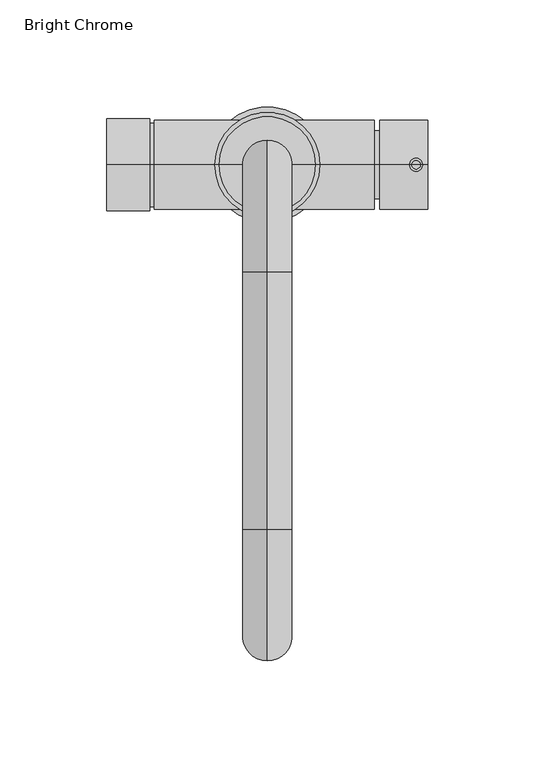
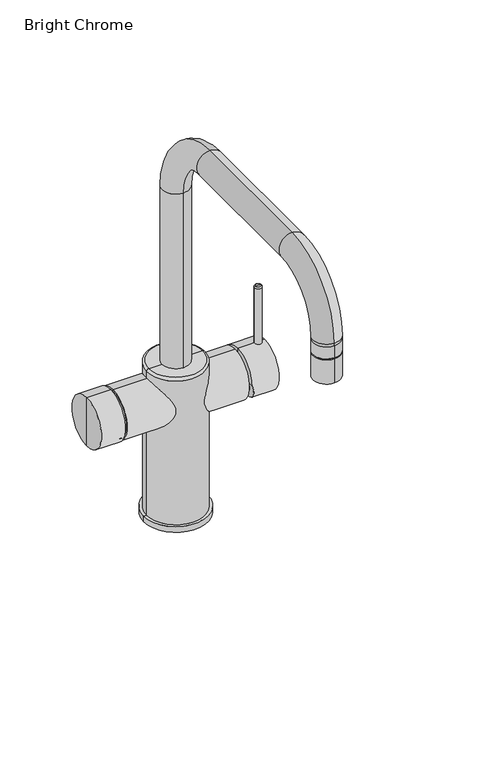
"""IFC4 building model written with IfcOpenShell, lengths in millimetres: flow terminal geometry, z_PlumFixt_Zip_Celsius Cube : Bright Chrome."""

from ifc_helpers import new_model, si_unit, point, frame, frame_2d, origin, place, context, project, spatial, circle_curve, ellipse_curve, trimmed, segment, composite_curve, outline, extrude, source, transform, mapped, element, save
from ifc_brep_helpers import plane_surface, cylinder_surface, revolved_surface, advanced_brep


def bright_chrome_d5fbbf34(model_context):
    return source(origin(), model_context, "Body", "SolidModel", [
        advanced_brep(
        [(68.5351919, 88.75, 176.8850432), (72.5351919, 88.75, 176.8850432), (70.5351919, 88.75, 176.8850432), (67.5351919, 88.75, 175.8850432), (73.5351919, 88.75, 175.8850432), (67.5351919, 88.75, 123.0), (73.5351919, 88.75, 123.0), (70.5351919, 88.75, 123.0)],
        [
            (0, 1, circle_curve(frame((70.5351919, 88.75, 176.8850432), z_axis=(0.0, 0.0, 1.0), x_axis=(1.0, 0.0, 0.0)), 2.0)),
            (1, 2),
            (2, 0),
            (1, 0, circle_curve(frame((70.5351919, 88.75, 176.8850432), z_axis=(0.0, 0.0, 1.0), x_axis=(1.0, 0.0, 0.0)), 2.0)),
            (3, 4, circle_curve(frame((70.5351919, 88.75, 175.8850432), z_axis=(0.0, 0.0, 1.0), x_axis=(1.0, 0.0, 0.0)), 3.0)),
            (4, 1, circle_curve(frame((72.5351919, 88.75, 175.8850432), z_axis=(0.0, -1.0, 0.0), x_axis=(-1.0, 0.0, 0.0)), 1.0)),
            (0, 3, circle_curve(frame((68.5351919, 88.75, 175.8850432), z_axis=(0.0, -1.0, 0.0), x_axis=(1.0, 0.0, 0.0)), 1.0)),
            (4, 3, circle_curve(frame((70.5351919, 88.75, 175.8850432), z_axis=(0.0, 0.0, 1.0), x_axis=(1.0, 0.0, 0.0)), 3.0)),
            (5, 6, circle_curve(frame((70.5351919, 88.75, 123.0), z_axis=(0.0, 0.0, 1.0), x_axis=(1.0, 0.0, 0.0)), 3.0)),
            (6, 4),
            (3, 5),
            (6, 5, circle_curve(frame((70.5351919, 88.75, 123.0), z_axis=(0.0, 0.0, 1.0), x_axis=(1.0, 0.0, 0.0)), 3.0)),
            (7, 6),
            (5, 7),
        ],
        [
            plane_surface(frame((70.5351919, 88.75, 176.8850432), z_axis=(0.0, 0.0, 1.0), x_axis=(1.0, 0.0, 0.0))),
            revolved_surface(trimmed(ellipse_curve(frame((72.5351919, 88.75, 175.8850432), z_axis=(0.0, 1.0, 0.0), x_axis=(-1.0, 0.0, 0.0)), 1.0, 1.0), [point((72.5351919, 88.75, 176.8850432))], [point((73.5351919, 88.75, 175.8850432))], True, "CARTESIAN"), (70.5351919, 88.75, 123.0), (0.0, 0.0, -1.0)),
            cylinder_surface(frame((70.5351919, 88.75, 123.0), z_axis=(0.0, 0.0, -1.0), x_axis=(1.0, 0.0, 0.0)), 3.0),
            plane_surface(frame((70.5351919, 88.75, 123.0), z_axis=(0.0, 0.0, -1.0), x_axis=(1.0, 0.0, 0.0))),
        ],
        [
            (0, [[1, 2, 3]]),
            (0, [[4, -3, -2]]),
            (1, [[5, 6, -1, 7]]),
            (1, [[8, -7, -4, -6]]),
            (2, [[9, 10, -5, 11]]),
            (2, [[12, -11, -8, -10]]),
            (3, [[13, -9, 14]]),
            (3, [[-14, -12, -13]]),
        ],
    ),
        advanced_brep(
        [(76.0, 88.75, 84.8850432), (76.0, 88.75, 126.8850432), (53.5, 88.75, 126.8850432), (53.5, 67.75, 105.8850432), (59.126933, 88.75, 84.8850432), (53.5, 109.75, 105.8850432), (53.5, 88.75, 105.8850432), (76.0, 88.75, 105.8850432)],
        [
            (0, 1, circle_curve(frame((76.0, 88.75, 105.8850432), z_axis=(-1.0, 0.0, 0.0), x_axis=(0.0, 0.0, 1.0)), 21.0)),
            (1, 2),
            (2, 3, circle_curve(frame((53.5, 88.75, 105.8850432), z_axis=(1.0, 0.0, 0.0), x_axis=(0.0, 0.0, 1.0)), 21.0)),
            (3, 4, ellipse_curve(frame((53.5, 88.75, 105.8850432), z_axis=(0.9659258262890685, 0.0, 0.2588190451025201), x_axis=(0.25881904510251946, 0.0, -0.9659258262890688)), 21.7407998, 21.0)),
            (4, 0),
            (1, 0, circle_curve(frame((76.0, 88.75, 105.8850432), z_axis=(-1.0, 0.0, 0.0), x_axis=(0.0, 0.0, 1.0)), 21.0)),
            (4, 5, ellipse_curve(frame((53.5, 88.75, 105.8850432), z_axis=(0.9659258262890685, 0.0, 0.2588190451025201), x_axis=(0.25881904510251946, 0.0, -0.9659258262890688)), 21.7407998, 21.0)),
            (5, 2, circle_curve(frame((53.5, 88.75, 105.8850432), z_axis=(1.0, 0.0, 0.0), x_axis=(0.0, 0.0, 1.0)), 21.0)),
            (2, 6),
            (6, 3),
            (5, 6),
            (0, 7),
            (7, 1),
        ],
        [
            cylinder_surface(frame((1.0, 88.75, 105.8850432), z_axis=(1.0, 0.0, 0.0), x_axis=(0.0, 0.0, 1.0)), 21.0),
            plane_surface(frame((53.5, 88.75, 105.8850432), z_axis=(-1.0, 0.0, 0.0), x_axis=(0.0, 0.0, 1.0))),
            plane_surface(frame((76.0, 88.75, 105.8850432), z_axis=(1.0, 0.0, 0.0), x_axis=(0.0, 0.0, 1.0))),
            plane_surface(frame((53.5, 115.75, 105.8850432), z_axis=(-0.9659258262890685, 0.0, -0.2588190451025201), x_axis=(0.0, -1.0, 0.0))),
        ],
        [
            (0, [[1, 2, 3, 4, 5]]),
            (0, [[-2, 6, -5, 7, 8]]),
            (1, [[9, 10, -3]]),
            (1, [[-9, -8, 11]]),
            (2, [[-1, 12, 13]]),
            (2, [[-6, -13, -12]]),
            (3, [[-4, -10, -11, -7]]),
        ],
    ),
        advanced_brep(
        [(1.0, -131.75, 253.0378342), (1.0, -136.75, 253.0378342), (1.0, -126.75, 253.0378342), (1.0, -136.75, 255.0), (1.0, -126.75, 255.0), (1.0, -143.25, 255.0), (1.0, -120.25, 255.0), (1.0, -120.25, 277.5), (1.0, -143.25, 277.5), (1.0, -143.25, 288.0), (1.0, -120.25, 288.0), (1.0, -121.2057691, 277.5), (1.0, -142.2942309, 277.5), (1.0, -121.2057691, 276.4755357), (1.0, -142.2942309, 276.4755357), (1.0, -120.25, 276.4755357), (1.0, -143.25, 276.4755357), (1.0, 100.25, 135.0), (1.0, 77.25, 135.0), (1.0, 100.25, 290.5), (1.0, 77.25, 290.5), (1.0, 38.75, 352.0), (1.0, 38.75, 329.0), (1.0, -81.75, 352.0), (1.0, -81.75, 329.0), (1.0, -143.25, 290.5), (1.0, -120.25, 290.5)],
        [
            (0, 1),
            (1, 2, circle_curve(frame((1.0, -131.75, 253.0378342), z_axis=(0.0, 0.0, -1.0), x_axis=(0.0, -1.0, 0.0)), 5.0)),
            (2, 0),
            (2, 1, circle_curve(frame((1.0, -131.75, 253.0378342), z_axis=(0.0, 0.0, -1.0), x_axis=(0.0, -1.0, 0.0)), 5.0)),
            (1, 3),
            (3, 4, circle_curve(frame((1.0, -131.75, 255.0), z_axis=(0.0, 0.0, -1.0), x_axis=(0.0, -1.0, 0.0)), 5.0)),
            (4, 2),
            (4, 3, circle_curve(frame((1.0, -131.75, 255.0), z_axis=(0.0, 0.0, -1.0), x_axis=(0.0, -1.0, 0.0)), 5.0)),
            (3, 5),
            (5, 6, circle_curve(frame((1.0, -131.75, 255.0), z_axis=(0.0, 0.0, -1.0), x_axis=(0.0, -1.0, 0.0)), 11.5)),
            (6, 4),
            (6, 5, circle_curve(frame((1.0, -131.75, 255.0), z_axis=(0.0, 0.0, -1.0), x_axis=(0.0, -1.0, 0.0)), 11.5)),
            (7, 8, circle_curve(frame((1.0, -131.75, 277.5), z_axis=(0.0, 0.0, 1.0), x_axis=(0.0, -1.0, 0.0)), 11.5)),
            (8, 9),
            (9, 10, circle_curve(frame((1.0, -131.75, 288.0), z_axis=(0.0, 0.0, -1.0), x_axis=(0.0, -1.0, 0.0)), 11.5)),
            (10, 7),
            (8, 7, circle_curve(frame((1.0, -131.75, 277.5), z_axis=(0.0, 0.0, 1.0), x_axis=(0.0, -1.0, 0.0)), 11.5)),
            (10, 9, circle_curve(frame((1.0, -131.75, 288.0), z_axis=(0.0, 0.0, -1.0), x_axis=(0.0, -1.0, 0.0)), 11.5)),
            (7, 11),
            (11, 12, circle_curve(frame((1.0, -131.75, 277.5), z_axis=(0.0, 0.0, 1.0), x_axis=(0.0, -1.0, 0.0)), 10.5442309)),
            (12, 8),
            (12, 11, circle_curve(frame((1.0, -131.75, 277.5), z_axis=(0.0, 0.0, 1.0), x_axis=(0.0, -1.0, 0.0)), 10.5442309)),
            (11, 13),
            (13, 14, circle_curve(frame((1.0, -131.75, 276.4755357), z_axis=(0.0, 0.0, 1.0), x_axis=(0.0, -1.0, 0.0)), 10.5442309)),
            (14, 12),
            (14, 13, circle_curve(frame((1.0, -131.75, 276.4755357), z_axis=(0.0, 0.0, 1.0), x_axis=(0.0, -1.0, 0.0)), 10.5442309)),
            (13, 15),
            (15, 16, circle_curve(frame((1.0, -131.75, 276.4755357), z_axis=(0.0, 0.0, 1.0), x_axis=(0.0, -1.0, 0.0)), 11.5)),
            (16, 14),
            (16, 15, circle_curve(frame((1.0, -131.75, 276.4755357), z_axis=(0.0, 0.0, 1.0), x_axis=(0.0, -1.0, 0.0)), 11.5)),
            (5, 16),
            (15, 6),
            (17, 18, circle_curve(frame((1.0, 88.75, 135.0), z_axis=(0.0, 0.0, -1.0), x_axis=(0.0, -1.0, 0.0)), 11.5)),
            (18, 17, circle_curve(frame((1.0, 88.75, 135.0), z_axis=(0.0, 0.0, -1.0), x_axis=(0.0, -1.0, 0.0)), 11.5)),
            (17, 19),
            (19, 20, circle_curve(frame((1.0, 88.75, 290.5), z_axis=(0.0, 0.0, -1.0), x_axis=(0.0, -1.0, 0.0)), 11.5)),
            (20, 18),
            (20, 19, circle_curve(frame((1.0, 88.75, 290.5), z_axis=(0.0, 0.0, -1.0), x_axis=(0.0, -1.0, 0.0)), 11.5)),
            (19, 21, circle_curve(frame((1.0, 38.75, 290.5), z_axis=(1.0, 0.0, 0.0), x_axis=(0.0, 1.0, 0.0)), 61.5)),
            (21, 22, circle_curve(frame((1.0, 38.75, 340.5), z_axis=(0.0, 1.0, 0.0), x_axis=(0.0, 0.0, -1.0)), 11.5)),
            (22, 20, circle_curve(frame((1.0, 38.75, 290.5), z_axis=(-1.0, 0.0, 0.0), x_axis=(0.0, 1.0, 0.0)), 38.5)),
            (22, 21, circle_curve(frame((1.0, 38.75, 340.5), z_axis=(0.0, 1.0, 0.0), x_axis=(0.0, 0.0, -1.0)), 11.5)),
            (21, 23),
            (23, 24, circle_curve(frame((1.0, -81.75, 340.5), z_axis=(0.0, 1.0, 0.0), x_axis=(0.0, 0.0, -1.0)), 11.5)),
            (24, 22),
            (24, 23, circle_curve(frame((1.0, -81.75, 340.5), z_axis=(0.0, 1.0, 0.0), x_axis=(0.0, 0.0, -1.0)), 11.5)),
            (23, 25, circle_curve(frame((1.0, -81.75, 290.5), z_axis=(1.0, 0.0, 0.0), x_axis=(0.0, 0.0, 1.0)), 61.5)),
            (25, 26, circle_curve(frame((1.0, -131.75, 290.5), z_axis=(0.0, 0.0, 1.0), x_axis=(0.0, 1.0, 0.0)), 11.5)),
            (26, 24, circle_curve(frame((1.0, -81.75, 290.5), z_axis=(-1.0, 0.0, 0.0), x_axis=(0.0, 0.0, 1.0)), 38.5)),
            (26, 25, circle_curve(frame((1.0, -131.75, 290.5), z_axis=(0.0, 0.0, 1.0), x_axis=(0.0, 1.0, 0.0)), 11.5)),
            (25, 9),
            (10, 26),
        ],
        [
            plane_surface(frame((1.0, -131.75, 253.0378342), z_axis=(0.0, 0.0, -1.0), x_axis=(0.0, -1.0, 0.0))),
            cylinder_surface(frame((1.0, -131.75, 297.7861871), z_axis=(0.0, 0.0, -1.0), x_axis=(0.0, -1.0, 0.0)), 5.0),
            plane_surface(frame((1.0, -131.75, 255.0), z_axis=(0.0, 0.0, -1.0), x_axis=(0.0, -1.0, 0.0))),
            cylinder_surface(frame((1.0, -131.75, 297.7861871), z_axis=(0.0, 0.0, -1.0), x_axis=(0.0, -1.0, 0.0)), 11.5),
            plane_surface(frame((1.0, -131.75, 277.5), z_axis=(0.0, 0.0, -1.0), x_axis=(0.0, -1.0, 0.0))),
            cylinder_surface(frame((1.0, -131.75, 297.7861871), z_axis=(0.0, 0.0, -1.0), x_axis=(0.0, -1.0, 0.0)), 10.5442309),
            plane_surface(frame((1.0, -131.75, 276.4755357), z_axis=(0.0, 0.0, 1.0), x_axis=(0.0, -1.0, 0.0))),
            plane_surface(frame((1.0, 88.75, 135.0), z_axis=(0.0, 0.0, -1.0), x_axis=(1.0, 0.0, 0.0))),
            cylinder_surface(frame((1.0, 88.75, 135.0), z_axis=(0.0, 0.0, -1.0), x_axis=(0.0, -1.0, 0.0)), 11.5),
            revolved_surface(trimmed(ellipse_curve(frame((1.0, 88.75, 290.5), z_axis=(0.0, 0.0, -1.0), x_axis=(0.0, -1.0, 0.0)), 11.5, 11.5), [point((1.0, 100.25, 290.5))], [point((1.0, 77.25, 290.5))], True, "CARTESIAN"), (1.0, 38.75, 290.5), (1.0, 0.0, 0.0)),
            revolved_surface(trimmed(ellipse_curve(frame((1.0, 88.75, 290.5), z_axis=(0.0, 0.0, -1.0), x_axis=(0.0, -1.0, 0.0)), 11.5, 11.5), [point((1.0, 77.25, 290.5))], [point((1.0, 100.25, 290.5))], True, "CARTESIAN"), (1.0, 38.75, 290.5), (1.0, 0.0, 0.0)),
            cylinder_surface(frame((1.0, 38.75, 340.5), z_axis=(0.0, 1.0, 0.0), x_axis=(0.0, 0.0, -1.0)), 11.5),
            revolved_surface(trimmed(ellipse_curve(frame((1.0, -81.75, 340.5), z_axis=(0.0, 1.0, 0.0), x_axis=(0.0, 0.0, -1.0)), 11.5, 11.5), [point((1.0, -81.75, 352.0))], [point((1.0, -81.75, 329.0))], True, "CARTESIAN"), (1.0, -81.75, 290.5), (1.0, 0.0, 0.0)),
            revolved_surface(trimmed(ellipse_curve(frame((1.0, -81.75, 340.5), z_axis=(0.0, 1.0, 0.0), x_axis=(0.0, 0.0, -1.0)), 11.5, 11.5), [point((1.0, -81.75, 329.0))], [point((1.0, -81.75, 352.0))], True, "CARTESIAN"), (1.0, -81.75, 290.5), (1.0, 0.0, 0.0)),
            cylinder_surface(frame((1.0, -131.75, 290.5), z_axis=(0.0, 0.0, 1.0), x_axis=(0.0, 1.0, 0.0)), 11.5),
        ],
        [
            (0, [[1, 2, 3]]),
            (0, [[-1, -3, 4]]),
            (1, [[-2, 5, 6, 7]]),
            (1, [[-4, -7, 8, -5]]),
            (2, [[-6, 9, 10, 11]]),
            (2, [[-8, -11, 12, -9]]),
            (3, [[13, 14, 15, 16]]),
            (3, [[-14, 17, -16, 18]]),
            (4, [[-13, 19, 20, 21]]),
            (4, [[-17, -21, 22, -19]]),
            (5, [[-20, 23, 24, 25]]),
            (5, [[-22, -25, 26, -23]]),
            (6, [[-24, 27, 28, 29]]),
            (6, [[-26, -29, 30, -27]]),
            (3, [[-10, 31, -28, 32]]),
            (3, [[-12, -32, -30, -31]]),
            (7, [[33, 34]]),
            (8, [[-33, 35, 36, 37]]),
            (8, [[-34, -37, 38, -35]]),
            (9, [[-36, 39, 40, 41]]),
            (10, [[-38, -41, 42, -39]]),
            (11, [[-40, 43, 44, 45]]),
            (11, [[-42, -45, 46, -43]]),
            (12, [[-44, 47, 48, 49]]),
            (13, [[-46, -49, 50, -47]]),
            (14, [[-48, 51, -18, 52]]),
            (14, [[-50, -52, -15, -51]]),
        ],
    ),
        extrude(outline(composite_curve([segment(trimmed(circle_curve(frame_2d((-6.35, 88.75)), 6.35), [point((0.0, 88.75))], [point((-12.7, 88.75))], False, "CARTESIAN"), True, "CONTINUOUS"), segment(trimmed(circle_curve(frame_2d((-6.35, 88.75)), 6.35), [point((-12.7, 88.75))], [point((0.0, 88.75))], False, "CARTESIAN"), True, "CONTINUOUS")], self_intersect=False)), frame((0.0, 0.0, -1.0), z_axis=(0.0, 0.0, 1.0), x_axis=(1.0, 0.0, 0.0)), (0.0, 0.0, 1.0), 1.0),
        extrude(outline(composite_curve([segment(trimmed(circle_curve(frame_2d((8.35, 88.75)), 6.35), [point((14.7, 88.75))], [point((2.0, 88.75))], False, "CARTESIAN"), True, "CONTINUOUS"), segment(trimmed(circle_curve(frame_2d((8.35, 88.75)), 6.35), [point((2.0, 88.75))], [point((14.7, 88.75))], False, "CARTESIAN"), True, "CONTINUOUS")], self_intersect=False)), frame((0.0, 0.0, -1.0), z_axis=(0.0, 0.0, 1.0), x_axis=(1.0, 0.0, 0.0)), (0.0, 0.0, 1.0), 1.0),
        advanced_brep(
        [(-54.0, 88.75, 86.3400719), (-54.0, 88.75, 125.4300145), (-54.0, 88.75, 127.4300145), (-54.0, 88.75, 84.3400719), (-52.0, 88.75, 86.3400719), (-52.0, 88.75, 125.4300145), (-52.0, 88.75, 84.8850432), (-52.0, 88.75, 126.8850432), (51.0, 88.75, 84.8850432), (51.0, 88.75, 126.8850432), (59.0, 88.75, 105.8850432), (59.0, 88.75, 121.8850432), (59.0, 88.75, 89.8850432), (-74.0, 88.75, 84.3400719), (-74.0, 88.75, 127.4300145), (-74.0, 88.75, 105.8850432), (51.0, 88.75, 89.8850432), (51.0, 88.75, 121.8850432)],
        [
            (0, 1, circle_curve(frame((-54.0, 88.75, 105.8850432), z_axis=(-1.0, 0.0, 0.0), x_axis=(0.0, 0.0, 1.0)), 19.5449713)),
            (1, 2),
            (2, 3, circle_curve(frame((-54.0, 88.75, 105.8850432), z_axis=(1.0, 0.0, 0.0), x_axis=(0.0, 0.0, 1.0)), 21.5449713)),
            (3, 0),
            (1, 0, circle_curve(frame((-54.0, 88.75, 105.8850432), z_axis=(-1.0, 0.0, 0.0), x_axis=(0.0, 0.0, 1.0)), 19.5449713)),
            (3, 2, circle_curve(frame((-54.0, 88.75, 105.8850432), z_axis=(1.0, 0.0, 0.0), x_axis=(0.0, 0.0, 1.0)), 21.5449713)),
            (4, 5, circle_curve(frame((-52.0, 88.75, 105.8850432), z_axis=(-1.0, 0.0, 0.0), x_axis=(0.0, 0.0, 1.0)), 19.5449713)),
            (5, 1),
            (0, 4),
            (5, 4, circle_curve(frame((-52.0, 88.75, 105.8850432), z_axis=(-1.0, 0.0, 0.0), x_axis=(0.0, 0.0, 1.0)), 19.5449713)),
            (6, 7, circle_curve(frame((-52.0, 88.75, 105.8850432), z_axis=(-1.0, 0.0, 0.0), x_axis=(0.0, 0.0, 1.0)), 21.0)),
            (7, 5),
            (4, 6),
            (7, 6, circle_curve(frame((-52.0, 88.75, 105.8850432), z_axis=(-1.0, 0.0, 0.0), x_axis=(0.0, 0.0, 1.0)), 21.0)),
            (8, 9, circle_curve(frame((51.0, 88.75, 105.8850432), z_axis=(-1.0, 0.0, 0.0), x_axis=(0.0, 0.0, 1.0)), 21.0)),
            (9, 7),
            (6, 8),
            (9, 8, circle_curve(frame((51.0, 88.75, 105.8850432), z_axis=(-1.0, 0.0, 0.0), x_axis=(0.0, 0.0, 1.0)), 21.0)),
            (10, 11),
            (11, 12, circle_curve(frame((59.0, 88.75, 105.8850432), z_axis=(1.0, 0.0, 0.0), x_axis=(0.0, 0.0, 1.0)), 16.0)),
            (12, 10),
            (12, 11, circle_curve(frame((59.0, 88.75, 105.8850432), z_axis=(1.0, 0.0, 0.0), x_axis=(0.0, 0.0, 1.0)), 16.0)),
            (13, 14, circle_curve(frame((-74.0, 88.75, 105.8850432), z_axis=(-1.0, 0.0, 0.0), x_axis=(0.0, 0.0, 1.0)), 21.5449713)),
            (14, 15),
            (15, 13),
            (14, 13, circle_curve(frame((-74.0, 88.75, 105.8850432), z_axis=(-1.0, 0.0, 0.0), x_axis=(0.0, 0.0, 1.0)), 21.5449713)),
            (2, 14),
            (13, 3),
            (16, 17, circle_curve(frame((51.0, 88.75, 105.8850432), z_axis=(-1.0, 0.0, 0.0), x_axis=(0.0, 0.0, 1.0)), 16.0)),
            (17, 9),
            (8, 16),
            (17, 16, circle_curve(frame((51.0, 88.75, 105.8850432), z_axis=(-1.0, 0.0, 0.0), x_axis=(0.0, 0.0, 1.0)), 16.0)),
            (11, 17),
            (16, 12),
        ],
        [
            plane_surface(frame((-54.0, 88.75, 105.8850432), z_axis=(1.0, 0.0, 0.0), x_axis=(0.0, 0.0, 1.0))),
            cylinder_surface(frame((1.0, 88.75, 105.8850432), z_axis=(1.0, 0.0, 0.0), x_axis=(0.0, 0.0, 1.0)), 19.5449713),
            plane_surface(frame((-52.0, 88.75, 105.8850432), z_axis=(-1.0, 0.0, 0.0), x_axis=(0.0, 0.0, 1.0))),
            cylinder_surface(frame((1.0, 88.75, 105.8850432), z_axis=(1.0, 0.0, 0.0), x_axis=(0.0, 0.0, 1.0)), 21.0),
            plane_surface(frame((59.0, 88.75, 105.8850432), z_axis=(1.0, 0.0, 0.0), x_axis=(0.0, 0.0, 1.0))),
            plane_surface(frame((-74.0, 88.75, 105.8850432), z_axis=(-1.0, 0.0, 0.0), x_axis=(0.0, 0.0, 1.0))),
            cylinder_surface(frame((1.0, 88.75, 105.8850432), z_axis=(1.0, 0.0, 0.0), x_axis=(0.0, 0.0, 1.0)), 21.5449713),
            plane_surface(frame((51.0, 88.75, 105.8850432), z_axis=(1.0, 0.0, 0.0), x_axis=(0.0, 0.0, 1.0))),
            cylinder_surface(frame((1.0, 88.75, 105.8850432), z_axis=(1.0, 0.0, 0.0), x_axis=(0.0, 0.0, 1.0)), 16.0),
        ],
        [
            (0, [[1, 2, 3, 4]]),
            (0, [[5, -4, 6, -2]]),
            (1, [[7, 8, -1, 9]]),
            (1, [[10, -9, -5, -8]]),
            (2, [[11, 12, -7, 13]]),
            (2, [[14, -13, -10, -12]]),
            (3, [[15, 16, -11, 17]]),
            (3, [[18, -17, -14, -16]]),
            (4, [[19, 20, 21]]),
            (4, [[-21, 22, -19]]),
            (5, [[23, 24, 25]]),
            (5, [[26, -25, -24]]),
            (6, [[-3, 27, -23, 28]]),
            (6, [[-6, -28, -26, -27]]),
            (7, [[29, 30, -15, 31]]),
            (7, [[32, -31, -18, -30]]),
            (8, [[-20, 33, -29, 34]]),
            (8, [[-22, -34, -32, -33]]),
        ],
    ),
        advanced_brep(
        [(1.0, 88.75, 0.0), (28.0, 88.75, 0.0), (-26.0, 88.75, 0.0), (-21.5, 88.75, 135.0), (23.5, 88.75, 135.0), (1.0, 88.75, 135.0), (-23.5, 88.75, 5.0), (25.5, 88.75, 5.0), (25.5, 88.75, 133.0), (-23.5, 88.75, 133.0), (-26.0, 88.75, 5.0), (28.0, 88.75, 5.0)],
        [
            (0, 1),
            (1, 2, circle_curve(frame((1.0, 88.75, 0.0), z_axis=(0.0, 0.0, -1.0), x_axis=(1.0, 0.0, 0.0)), 27.0)),
            (2, 0),
            (2, 1, circle_curve(frame((1.0, 88.75, 0.0), z_axis=(0.0, 0.0, -1.0), x_axis=(1.0, 0.0, 0.0)), 27.0)),
            (3, 4, circle_curve(frame((1.0, 88.75, 135.0), z_axis=(0.0, 0.0, 1.0), x_axis=(1.0, 0.0, 0.0)), 22.5)),
            (4, 5),
            (5, 3),
            (4, 3, circle_curve(frame((1.0, 88.75, 135.0), z_axis=(0.0, 0.0, 1.0), x_axis=(1.0, 0.0, 0.0)), 22.5)),
            (6, 7, circle_curve(frame((1.0, 88.75, 5.0), z_axis=(0.0, 0.0, 1.0), x_axis=(1.0, 0.0, 0.0)), 24.5)),
            (7, 8),
            (8, 9, circle_curve(frame((1.0, 88.75, 133.0), z_axis=(0.0, 0.0, -1.0), x_axis=(1.0, 0.0, 0.0)), 24.5)),
            (9, 6),
            (7, 6, circle_curve(frame((1.0, 88.75, 5.0), z_axis=(0.0, 0.0, 1.0), x_axis=(1.0, 0.0, 0.0)), 24.5)),
            (9, 8, circle_curve(frame((1.0, 88.75, 133.0), z_axis=(0.0, 0.0, -1.0), x_axis=(1.0, 0.0, 0.0)), 24.5)),
            (10, 11, circle_curve(frame((1.0, 88.75, 5.0), z_axis=(0.0, 0.0, 1.0), x_axis=(1.0, 0.0, 0.0)), 27.0)),
            (11, 7),
            (6, 10),
            (11, 10, circle_curve(frame((1.0, 88.75, 5.0), z_axis=(0.0, 0.0, 1.0), x_axis=(1.0, 0.0, 0.0)), 27.0)),
            (1, 11),
            (10, 2),
            (8, 4, circle_curve(frame((23.5, 88.75, 133.0), z_axis=(0.0, -1.0, 0.0), x_axis=(-1.0, 0.0, 0.0)), 2.0)),
            (3, 9, circle_curve(frame((-21.5, 88.75, 133.0), z_axis=(0.0, -1.0, 0.0), x_axis=(1.0, 0.0, 0.0)), 2.0)),
        ],
        [
            plane_surface(frame((1.0, 88.75, 0.0), z_axis=(0.0, 0.0, -1.0), x_axis=(1.0, 0.0, 0.0))),
            plane_surface(frame((1.0, 88.75, 135.0), z_axis=(0.0, 0.0, 1.0), x_axis=(1.0, 0.0, 0.0))),
            cylinder_surface(frame((1.0, 88.75, 135.0), z_axis=(0.0, 0.0, -1.0), x_axis=(1.0, 0.0, 0.0)), 24.5),
            plane_surface(frame((1.0, 88.75, 5.0), z_axis=(0.0, 0.0, 1.0), x_axis=(1.0, 0.0, 0.0))),
            cylinder_surface(frame((1.0, 88.75, 135.0), z_axis=(0.0, 0.0, -1.0), x_axis=(1.0, 0.0, 0.0)), 27.0),
            revolved_surface(trimmed(ellipse_curve(frame((23.5, 88.75, 133.0), z_axis=(0.0, 1.0, 0.0), x_axis=(-1.0, 0.0, 0.0)), 2.0, 2.0), [point((23.5, 88.75, 135.0))], [point((25.5, 88.75, 133.0))], True, "CARTESIAN"), (1.0, 88.75, 135.0), (0.0, 0.0, -1.0)),
        ],
        [
            (0, [[1, 2, 3]]),
            (0, [[-3, 4, -1]]),
            (1, [[5, 6, 7]]),
            (1, [[8, -7, -6]]),
            (2, [[9, 10, 11, 12]]),
            (2, [[13, -12, 14, -10]]),
            (3, [[15, 16, -9, 17]]),
            (3, [[18, -17, -13, -16]]),
            (4, [[-2, 19, -15, 20]]),
            (4, [[-4, -20, -18, -19]]),
            (5, [[-11, 21, -5, 22]]),
            (5, [[-14, -22, -8, -21]]),
        ],
    ),
    ])


if __name__ == "__main__":
    model = new_model("IFC4")
    model_context = context("Model", 3, world=origin())
    ifc_project = project(units=[si_unit("LENGTHUNIT", "METRE", prefix="MILLI")], contexts=[model_context])
    site = spatial("IfcSite", under=ifc_project)
    building = spatial("IfcBuilding", under=site)
    placement = place(None, origin())
    bright_chrome_shape = bright_chrome_d5fbbf34(model_context)
    element("IfcFlowTerminal", 1, ObjectType="z_PlumFixt_Zip_Celsius Cube : Bright Chrome", at=placement, inside=building, context=model_context, shape_type="MappedRepresentation", body=[
        mapped(bright_chrome_shape, transform((0.0, 0.0, 0.0), x_axis=(1.0, 0.0, 0.0), y_axis=(0.0, 1.0, 0.0), z_axis=(0.0, 0.0, 1.0))),
    ])
    save(model, "model.ifc")
